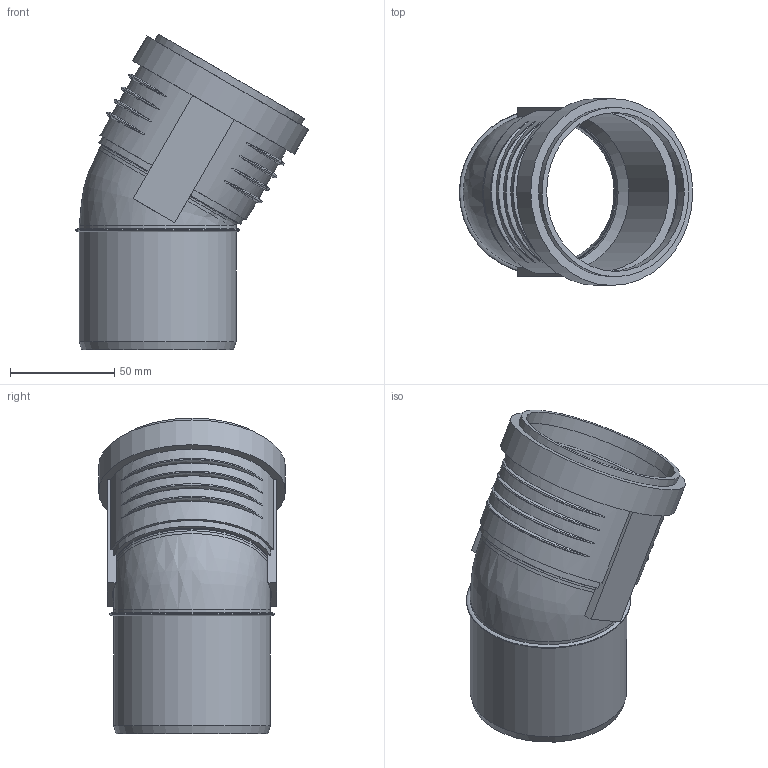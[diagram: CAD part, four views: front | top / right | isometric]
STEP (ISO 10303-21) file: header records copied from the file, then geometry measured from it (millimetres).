
FILE_DESCRIPTION(/* description */ (''),/* implementation_level */ '2;1');
FILE_NAME(/* name */ 'Z:\Geberit\Export\NewStep\390321.stp',/* time_stamp */ '2014-04-02T08:11:34+02:00',/* author */ ('ML'),/* organization */ (''),/* preprocessor_version */ 'ST-DEVELOPER v15.2',/* originating_system */ 'Autodesk Inventor 2014',/* authorisation */ '');
FILE_SCHEMA (('AUTOMOTIVE_DESIGN { 1 0 10303 214 3 1 1 }'));
Length unit declared in the file: millimetre
Products named in the file (3): 861327; 861402; 390321
Bounding box: 111.9 x 89.6 x 151.43 mm (x, y, z)
Volume: 98661.4 mm3; surface area: 79374.2 mm2
Topology: 2 solids, 2 shells, 68 faces, 162 edges, 109 vertices
Faces by surface type: torus 28, plane 19, cylinder 18, cone 2, bspline 1
Full cylindrical faces by diameter (mm): 70 x2, 70.2 x1, 75.2 x4, 76.2 x2, 81.2 x1, 84.6 x1, 89.6 x1
Entity records: 2726 total; most frequent: CARTESIAN_POINT 1150, DIRECTION 290, ORIENTED_EDGE 278, EDGE_CURVE 139, AXIS2_PLACEMENT_3D 127, VERTEX_POINT 106, EDGE_LOOP 103, STYLED_ITEM 70
